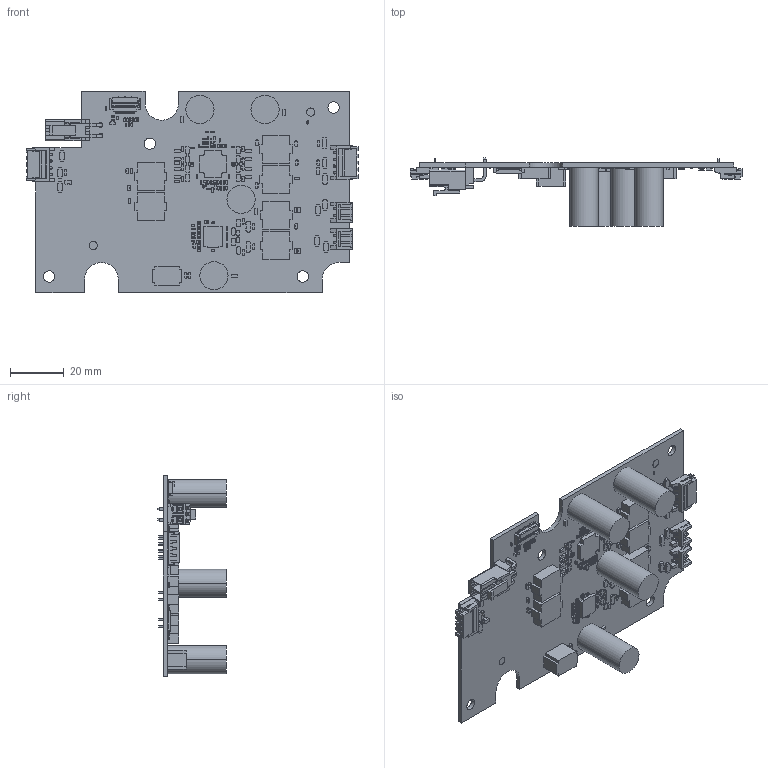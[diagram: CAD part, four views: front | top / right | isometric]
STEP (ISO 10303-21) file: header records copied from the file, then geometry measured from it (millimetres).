
FILE_DESCRIPTION((''),'2;1');
FILE_NAME('AMP_BOARD_SWAN_ASSY_ASM','2020-12-01T',('g6007893'),(''),'PRO/ENGINEER BY PARAMETRIC TECHNOLOGY CORPORATION, 2013320','PRO/ENGINEER BY PARAMETRIC TECHNOLOGY CORPORATION, 2013320','');
FILE_SCHEMA(('AUTOMOTIVE_DESIGN { 1 0 10303 214 1 1 1 1 }'));
Length unit declared in the file: millimetre
Products named in the file (30): AMP_BOARD_SWAN; C-D10_5-5-H22; SSOP-24ESH; TQFP-48DSH; S-51318-002XX-XXX; S-51282-002HXXX-XXX; S4B-EH; EHR-4; S2B-EH; PRT0006; FH41-15S-0_5SH-_ASM; SOD-123G; L-S9_5X7-4-H7-TEMP; FIDMS1; L-S11X10_3-2; C-0402S0; C-0805-H1_35; C-0603S0; FB-BLM18; L-0402S0; R-0402S0; R-1206; R-0603S0; R-0805; ICT020; ICT040S0; 96_1531T00-015-1201-1900_BOTTOM; 96_1531T00-015-1201-1900_TOP; 96_1531T00-015-1201-1900_ASM; AMP_BOARD_SWAN_ASSY_ASM
Assembly tree (210 placements, depth 3):
  AMP_BOARD_SWAN_ASSY_ASM
    AMP_BOARD_SWAN
    C-D10_5-5-H22  x4
    SSOP-24ESH
    TQFP-48DSH
    S-51318-002XX-XXX
    S-51282-002HXXX-XXX
    S4B-EH  x2
    EHR-4  x2
    S2B-EH  x2
    FH41-15S-0_5SH-_ASM
      PRT0006
    96_1531T00-015-1201-1900_ASM
      SOD-123G  x10
      L-S9_5X7-4-H7-TEMP
      FIDMS1  x4
      L-S11X10_3-2  x6
      C-0402S0  x32
      C-0805-H1_35  x2
      C-0603S0  x36
      FB-BLM18  x12
      L-0402S0  x3
      R-0402S0  x50
      R-1206  x2
      R-0603S0  x3
      R-0805  x12
      ICT020  x2
      ICT040S0  x15
      96_1531T00-015-1201-1900_BOTTOM
      96_1531T00-015-1201-1900_TOP
Bounding box: 123.7 x 25.6 x 75 mm (x, y, z)
Volume: 25798.8 mm3; surface area: 28978.9 mm2
Topology: 206 solids, 206 shells, 7523 faces, 30503 edges, 28017 vertices
Faces by surface type: plane 6808, cylinder 712, extrusion 3
Entity records: 136445 total; most frequent: CARTESIAN_POINT 17983, DIRECTION 17813, VECTOR 12293, LINE 12290, PRESENTATION_STYLE_ASSIGNMENT 10232, STYLED_ITEM 10232, CURVE_STYLE 10149, TRIMMED_CURVE 9234
